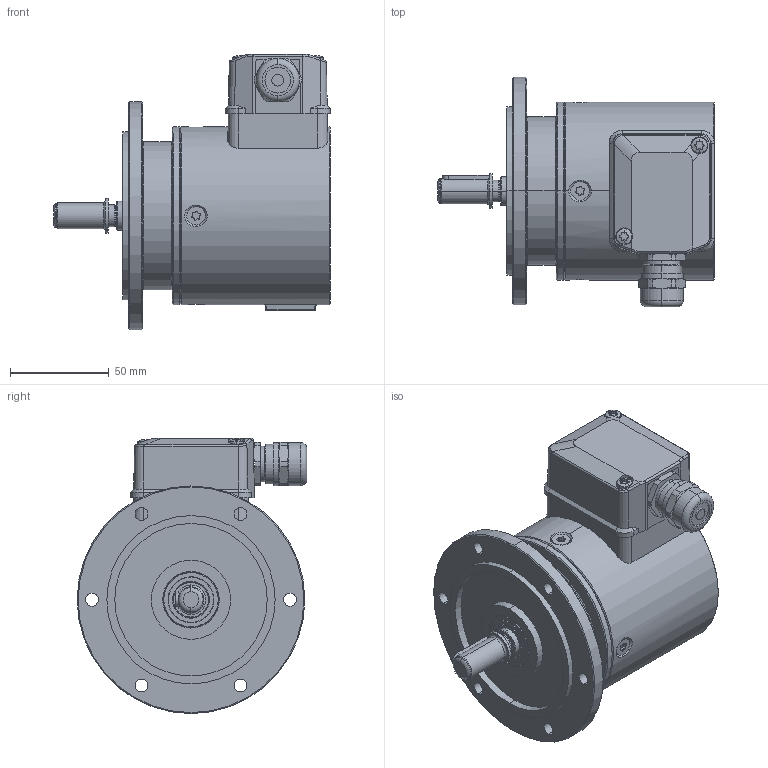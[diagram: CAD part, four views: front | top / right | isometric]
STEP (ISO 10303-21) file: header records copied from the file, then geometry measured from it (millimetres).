
FILE_DESCRIPTION (( 'STEP AP214' ), '1' );
FILE_NAME ('8.H100.111X.XXXX.STEP', '2011-01-31T07:30:37', ( 'admin' ), ( 'Fritz Kübler GmbH' ), 'SwSTEP 2.0', 'SolidWorks 2009', '' );
FILE_SCHEMA (( 'AUTOMOTIVE_DESIGN' ));
Length unit declared in the file: millimetre
Products named in the file (1): 8.H100.111X.XXXX
Bounding box: 139.9 x 116.02 x 139 mm (x, y, z)
Surface area: 75166.2 mm2 (no closed solid volume)
Topology: 0 solids, 17 shells, 389 faces, 1046 edges, 683 vertices
Faces by surface type: cylinder 204, plane 82, cone 66, bspline 15, torus 15, sphere 7
Entity records: 18598 total; most frequent: CARTESIAN_POINT 4486, DIRECTION 2166, ORIENTED_EDGE 1955, EDGE_CURVE 1046, AXIS2_PLACEMENT_3D 881, VERTEX_POINT 683, CIRCLE 506, EDGE_LOOP 433
